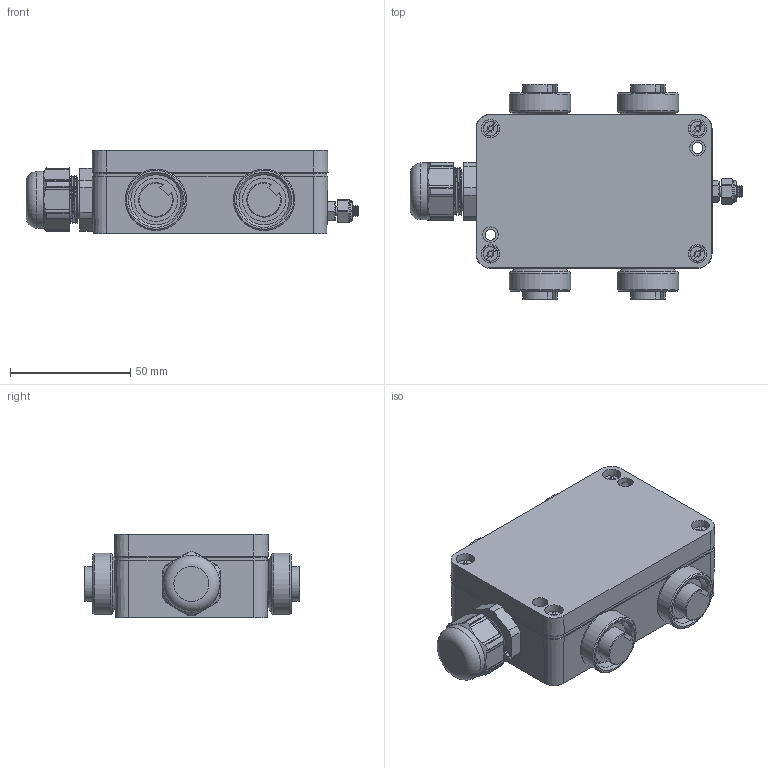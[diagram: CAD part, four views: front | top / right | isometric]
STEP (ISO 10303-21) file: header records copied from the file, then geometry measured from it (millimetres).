
FILE_DESCRIPTION (( 'STEP AP203' ), '1' );
FILE_NAME ('P-4RKFV-Cable.step', '2020-06-11T21:28:51', ( '' ), ( '' ), 'SwSTEP 2.0', 'SolidWorks 2017', '' );
FILE_SCHEMA (( 'CONFIG_CONTROL_DESIGN' ));
Length unit declared in the file: millimetre
Products named in the file (1): P-4RKFV-Cable
Bounding box: 137.86 x 89.55 x 34.5 mm (x, y, z)
Volume: 232556.9 mm3; surface area: 44721 mm2
Topology: 1 solids, 2 shells, 557 faces, 1473 edges, 974 vertices
Faces by surface type: plane 299, cylinder 132, cone 113, torus 10, bspline 3
Full cylindrical faces by diameter (mm): 3.2 x2, 3.3 x2, 3.5 x4, 3.861 x2, 4.5 x4, 5 x3, 6.4 x2, 6.502 x1, 7 x4, 8 x2, 8.6 x2, 8.89 x1, 15.7 x1, 18 x4, 20.85 x4, 22.5 x4, 23.6 x1, 25.4 x4
Entity records: 20263 total; most frequent: CARTESIAN_POINT 7261, DIRECTION 2668, ORIENTED_EDGE 2598, EDGE_CURVE 1299, AXIS2_PLACEMENT_3D 996, VERTEX_POINT 916, EDGE_LOOP 749, VECTOR 676
